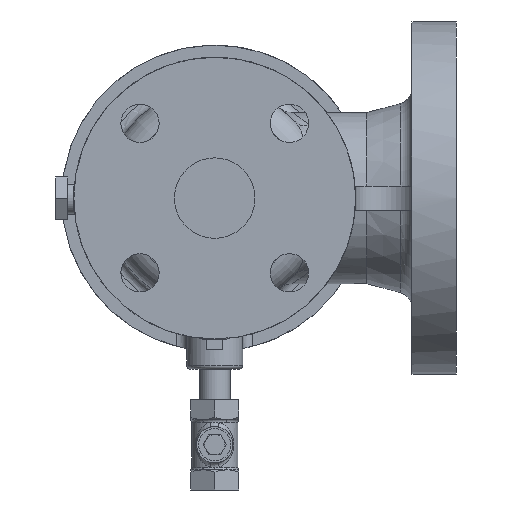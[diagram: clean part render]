
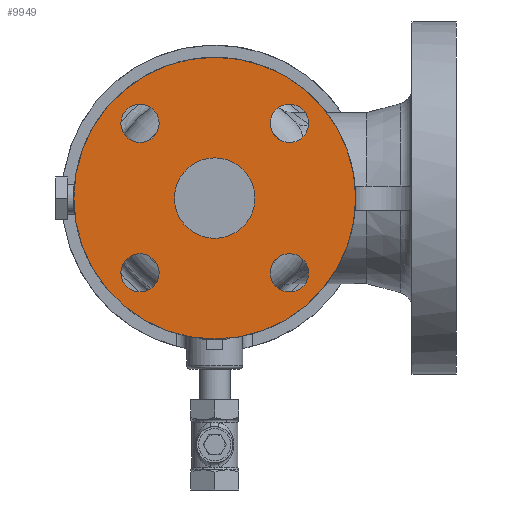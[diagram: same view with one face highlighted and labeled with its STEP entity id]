
A CAD part, front view. The second image highlights one B-rep face of the part: STEP entity #9949.
In plain terms, the highlighted planar face has unit normal (0, -1, 0).
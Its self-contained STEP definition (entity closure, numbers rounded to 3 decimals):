
#294 = AXIS2_PLACEMENT_3D ( 'NONE', #5738, #4620, #9089 ) ;
#326 = VERTEX_POINT ( 'NONE', #11595 ) ;
#531 = AXIS2_PLACEMENT_3D ( 'NONE', #756, #687, #833 ) ;
#687 = DIRECTION ( 'NONE',  ( 0., -1., 0. ) ) ;
#696 = DIRECTION ( 'NONE',  ( 0., 0., 1. ) ) ;
#756 = CARTESIAN_POINT ( 'NONE',  ( 37.123, -120., -37.123 ) ) ;
#827 = DIRECTION ( 'NONE',  ( 0., 0., -1. ) ) ;
#833 = DIRECTION ( 'NONE',  ( -1., 0., 0. ) ) ;
#969 = EDGE_CURVE ( 'NONE', #10920, #14107, #3457, .T. ) ;
#991 = EDGE_CURVE ( 'NONE', #7336, #1545, #13929, .T. ) ;
#1081 = ORIENTED_EDGE ( 'NONE', *, *, #9093, .F. ) ;
#1117 = CARTESIAN_POINT ( 'NONE',  ( 0., -120., 20. ) ) ;
#1140 = DIRECTION ( 'NONE',  ( 0., -1., 0. ) ) ;
#1247 = CARTESIAN_POINT ( 'NONE',  ( -27.623, -120., -37.123 ) ) ;
#1355 = FACE_BOUND ( 'NONE', #5453, .T. ) ;
#1388 = CARTESIAN_POINT ( 'NONE',  ( -46.623, -120., 37.123 ) ) ;
#1432 = VERTEX_POINT ( 'NONE', #4573 ) ;
#1545 = VERTEX_POINT ( 'NONE', #8549 ) ;
#1561 = ORIENTED_EDGE ( 'NONE', *, *, #991, .F. ) ;
#1859 = CARTESIAN_POINT ( 'NONE',  ( 37.123, -120., 37.123 ) ) ;
#2111 = ORIENTED_EDGE ( 'NONE', *, *, #969, .F. ) ;
#2122 = DIRECTION ( 'NONE',  ( 1., 0., 0. ) ) ;
#2152 = CARTESIAN_POINT ( 'NONE',  ( -37.123, -120., 37.123 ) ) ;
#2165 = CIRCLE ( 'NONE', #5485, 20. ) ;
#2271 = AXIS2_PLACEMENT_3D ( 'NONE', #1859, #13258, #827 ) ;
#2645 = EDGE_LOOP ( 'NONE', ( #1561, #3805 ) ) ;
#2726 = DIRECTION ( 'NONE',  ( 0., 0., 1. ) ) ;
#2885 = CARTESIAN_POINT ( 'NONE',  ( 0., -120., 0. ) ) ;
#2971 = CARTESIAN_POINT ( 'NONE',  ( 27.623, -120., -37.123 ) ) ;
#2992 = EDGE_LOOP ( 'NONE', ( #8282, #11292 ) ) ;
#3102 = CIRCLE ( 'NONE', #11422, 9.5 ) ;
#3285 = FACE_BOUND ( 'NONE', #2645, .T. ) ;
#3457 = CIRCLE ( 'NONE', #4646, 9.5 ) ;
#3567 = CARTESIAN_POINT ( 'NONE',  ( -70., -120., 0. ) ) ;
#3688 = CARTESIAN_POINT ( 'NONE',  ( 46.623, -120., 37.123 ) ) ;
#3763 = ORIENTED_EDGE ( 'NONE', *, *, #8147, .F. ) ;
#3805 = ORIENTED_EDGE ( 'NONE', *, *, #9521, .F. ) ;
#4238 = DIRECTION ( 'NONE',  ( 0., -1., 0. ) ) ;
#4423 = VERTEX_POINT ( 'NONE', #13931 ) ;
#4457 = CARTESIAN_POINT ( 'NONE',  ( 0., -120., 0. ) ) ;
#4559 = AXIS2_PLACEMENT_3D ( 'NONE', #2885, #5274, #11160 ) ;
#4573 = CARTESIAN_POINT ( 'NONE',  ( 0., -120., -20. ) ) ;
#4620 = DIRECTION ( 'NONE',  ( 0., 1., 0. ) ) ;
#4629 = VERTEX_POINT ( 'NONE', #1117 ) ;
#4646 = AXIS2_PLACEMENT_3D ( 'NONE', #12203, #4238, #11167 ) ;
#4674 = EDGE_CURVE ( 'NONE', #1432, #4629, #12387, .T. ) ;
#4693 = FACE_BOUND ( 'NONE', #5403, .T. ) ;
#4825 = AXIS2_PLACEMENT_3D ( 'NONE', #2152, #13771, #10058 ) ;
#4894 = ORIENTED_EDGE ( 'NONE', *, *, #14449, .F. ) ;
#4984 = CARTESIAN_POINT ( 'NONE',  ( -46.623, -120., -37.123 ) ) ;
#5105 = EDGE_LOOP ( 'NONE', ( #4894, #3763 ) ) ;
#5274 = DIRECTION ( 'NONE',  ( 0., 1., 0. ) ) ;
#5403 = EDGE_LOOP ( 'NONE', ( #9959, #11830 ) ) ;
#5407 = ORIENTED_EDGE ( 'NONE', *, *, #4674, .F. ) ;
#5453 = EDGE_LOOP ( 'NONE', ( #6984, #5407 ) ) ;
#5485 = AXIS2_PLACEMENT_3D ( 'NONE', #14162, #8492, #13042 ) ;
#5738 = CARTESIAN_POINT ( 'NONE',  ( 0., -120., 0. ) ) ;
#5866 = EDGE_CURVE ( 'NONE', #10812, #4423, #14358, .T. ) ;
#6160 = CARTESIAN_POINT ( 'NONE',  ( -37.123, -120., -37.123 ) ) ;
#6239 = CARTESIAN_POINT ( 'NONE',  ( 37.123, -120., 37.123 ) ) ;
#6351 = DIRECTION ( 'NONE',  ( 0., -1., 0. ) ) ;
#6592 = VERTEX_POINT ( 'NONE', #4984 ) ;
#6846 = CARTESIAN_POINT ( 'NONE',  ( -70., -120., 0. ) ) ;
#6879 = DIRECTION ( 'NONE',  ( 0., -1., 0. ) ) ;
#6984 = ORIENTED_EDGE ( 'NONE', *, *, #10152, .F. ) ;
#7051 = EDGE_CURVE ( 'NONE', #9178, #326, #11007, .T. ) ;
#7336 = VERTEX_POINT ( 'NONE', #3688 ) ;
#7879 = DIRECTION ( 'NONE',  ( 1., 0., 0. ) ) ;
#8147 = EDGE_CURVE ( 'NONE', #6592, #11707, #3102, .T. ) ;
#8282 = ORIENTED_EDGE ( 'NONE', *, *, #7051, .F. ) ;
#8427 = EDGE_CURVE ( 'NONE', #4423, #10812, #10501, .T. ) ;
#8492 = DIRECTION ( 'NONE',  ( 0., -1., 0. ) ) ;
#8549 = CARTESIAN_POINT ( 'NONE',  ( 27.623, -120., 37.123 ) ) ;
#8999 = DIRECTION ( 'NONE',  ( 0., -1., 0. ) ) ;
#9049 = AXIS2_PLACEMENT_3D ( 'NONE', #3567, #1140, #12371 ) ;
#9089 = DIRECTION ( 'NONE',  ( -1., 0., 0. ) ) ;
#9093 = EDGE_CURVE ( 'NONE', #14107, #10920, #10277, .T. ) ;
#9178 = VERTEX_POINT ( 'NONE', #6846 ) ;
#9521 = EDGE_CURVE ( 'NONE', #1545, #7336, #11665, .T. ) ;
#9667 = DIRECTION ( 'NONE',  ( 0., -1., 0. ) ) ;
#9949 = ADVANCED_FACE ( 'NONE', ( #3285, #12454, #10445, #4693, #1355, #11262 ), #12594, .T. ) ;
#9959 = ORIENTED_EDGE ( 'NONE', *, *, #8427, .F. ) ;
#9962 = EDGE_CURVE ( 'NONE', #326, #9178, #12858, .T. ) ;
#10058 = DIRECTION ( 'NONE',  ( 1., 0., 0. ) ) ;
#10152 = EDGE_CURVE ( 'NONE', #4629, #1432, #2165, .T. ) ;
#10277 = CIRCLE ( 'NONE', #531, 9.5 ) ;
#10445 = FACE_BOUND ( 'NONE', #5105, .T. ) ;
#10501 = CIRCLE ( 'NONE', #11210, 9.5 ) ;
#10812 = VERTEX_POINT ( 'NONE', #1388 ) ;
#10920 = VERTEX_POINT ( 'NONE', #12631 ) ;
#10974 = AXIS2_PLACEMENT_3D ( 'NONE', #6239, #9667, #14213 ) ;
#11007 = CIRCLE ( 'NONE', #4559, 70. ) ;
#11160 = DIRECTION ( 'NONE',  ( -1., 0., 0. ) ) ;
#11167 = DIRECTION ( 'NONE',  ( -1., 0., 0. ) ) ;
#11210 = AXIS2_PLACEMENT_3D ( 'NONE', #14718, #6879, #2122 ) ;
#11262 = FACE_OUTER_BOUND ( 'NONE', #2992, .T. ) ;
#11292 = ORIENTED_EDGE ( 'NONE', *, *, #9962, .F. ) ;
#11422 = AXIS2_PLACEMENT_3D ( 'NONE', #14092, #6351, #696 ) ;
#11525 = CIRCLE ( 'NONE', #14147, 9.5 ) ;
#11595 = CARTESIAN_POINT ( 'NONE',  ( 70., -120., 0. ) ) ;
#11665 = CIRCLE ( 'NONE', #10974, 9.5 ) ;
#11707 = VERTEX_POINT ( 'NONE', #1247 ) ;
#11830 = ORIENTED_EDGE ( 'NONE', *, *, #5866, .F. ) ;
#12203 = CARTESIAN_POINT ( 'NONE',  ( 37.123, -120., -37.123 ) ) ;
#12371 = DIRECTION ( 'NONE',  ( 1., 0., 0. ) ) ;
#12387 = CIRCLE ( 'NONE', #13361, 20. ) ;
#12454 = FACE_BOUND ( 'NONE', #13511, .T. ) ;
#12594 = PLANE ( 'NONE',  #9049 ) ;
#12631 = CARTESIAN_POINT ( 'NONE',  ( 46.623, -120., -37.123 ) ) ;
#12858 = CIRCLE ( 'NONE', #294, 70. ) ;
#12861 = DIRECTION ( 'NONE',  ( 0., -1., 0. ) ) ;
#13042 = DIRECTION ( 'NONE',  ( 1., 0., 0. ) ) ;
#13258 = DIRECTION ( 'NONE',  ( 0., -1., 0. ) ) ;
#13361 = AXIS2_PLACEMENT_3D ( 'NONE', #4457, #8999, #7879 ) ;
#13511 = EDGE_LOOP ( 'NONE', ( #2111, #1081 ) ) ;
#13771 = DIRECTION ( 'NONE',  ( 0., -1., 0. ) ) ;
#13929 = CIRCLE ( 'NONE', #2271, 9.5 ) ;
#13931 = CARTESIAN_POINT ( 'NONE',  ( -27.623, -120., 37.123 ) ) ;
#14092 = CARTESIAN_POINT ( 'NONE',  ( -37.123, -120., -37.123 ) ) ;
#14107 = VERTEX_POINT ( 'NONE', #2971 ) ;
#14147 = AXIS2_PLACEMENT_3D ( 'NONE', #6160, #12861, #2726 ) ;
#14162 = CARTESIAN_POINT ( 'NONE',  ( 0., -120., 0. ) ) ;
#14213 = DIRECTION ( 'NONE',  ( 0., 0., -1. ) ) ;
#14358 = CIRCLE ( 'NONE', #4825, 9.5 ) ;
#14449 = EDGE_CURVE ( 'NONE', #11707, #6592, #11525, .T. ) ;
#14718 = CARTESIAN_POINT ( 'NONE',  ( -37.123, -120., 37.123 ) ) ;
